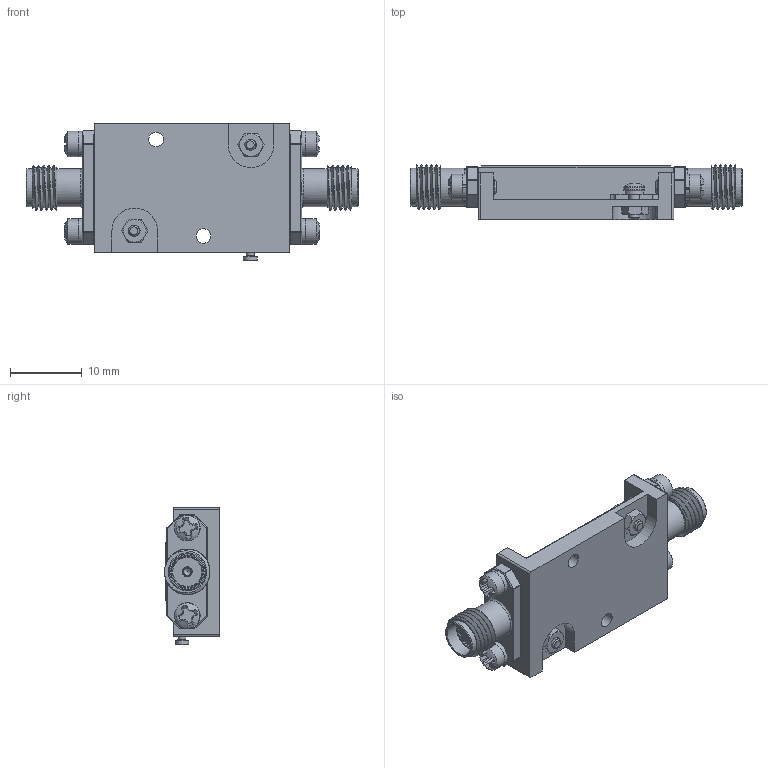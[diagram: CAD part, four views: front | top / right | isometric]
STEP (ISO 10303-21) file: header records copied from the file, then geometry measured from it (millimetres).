
FILE_DESCRIPTION (( 'STEP AP214' ), '1' );
FILE_NAME ('PE2-30-2R53R5-2R0-23-12-SFF.STEP', '2026-06-26T15:45:15', ( '' ), ( '' ), 'SwSTEP 2.0', 'SolidWorks 2025', '' );
FILE_SCHEMA (( 'AUTOMOTIVE_DESIGN' ));
Length unit declared in the file: inch
Products named in the file (1): PE2-30-2R53R5-2R0-23-12-SFF
Bounding box: 46.33 x 7.68 x 19.2 mm (x, y, z)
Volume: 3284.9 mm3; surface area: 4514.7 mm2
Topology: 25 solids, 25 shells, 765 faces, 2482 edges, 1861 vertices
Faces by surface type: plane 374, cylinder 182, cone 71, sphere 62, torus 56, bspline 20
Full cylindrical faces by diameter (mm): 0.305 x2, 0.508 x2, 0.762 x2, 1.016 x2, 1.067 x1, 1.18 x6, 1.27 x2, 1.295 x1, 1.524 x10, 1.6 x2, 1.702 x2, 1.778 x4, 1.93 x1, 2.057 x2, 2.184 x5, 2.515 x2, 2.591 x4, 2.946 x2, 3.302 x2, 3.556 x4, 4.191 x4, 4.597 x2, 5.283 x4
Entity records: 41908 total; most frequent: CARTESIAN_POINT 11394, ORIENTED_EDGE 4552, DIRECTION 3985, EDGE_CURVE 2276, VERTEX_POINT 1842, AXIS2_PLACEMENT_3D 1438, VECTOR 1109, LINE 1109
